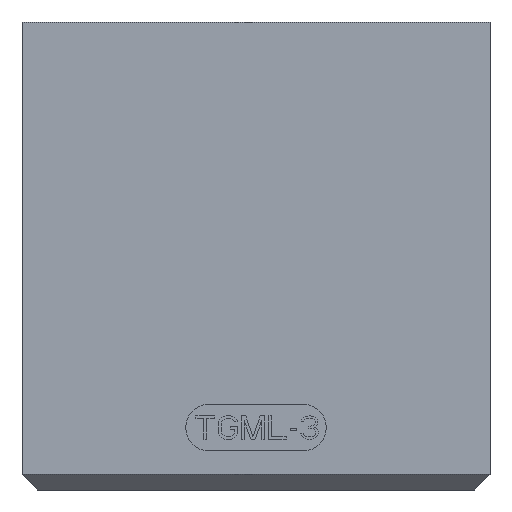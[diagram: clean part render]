
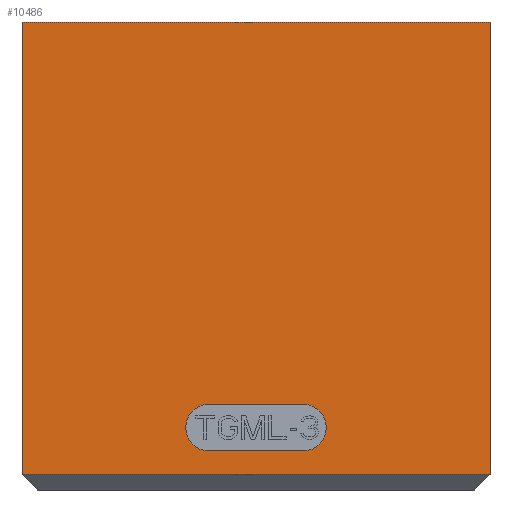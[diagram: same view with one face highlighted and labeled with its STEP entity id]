
A CAD part, front view. The second image highlights one B-rep face of the part: STEP entity #10486.
In plain terms, the highlighted planar face has unit normal (0, -1, 0).
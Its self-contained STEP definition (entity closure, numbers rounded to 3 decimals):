
#1886=DIRECTION('',(1.,0.,0.));
#1887=VECTOR('',#1886,30.);
#1888=CARTESIAN_POINT('',(-4.,-6.,7.5));
#1889=LINE('',#1888,#1887);
#1928=DIRECTION('',(0.,0.,1.));
#1929=VECTOR('',#1928,29.);
#1930=CARTESIAN_POINT('',(26.,-6.,-21.5));
#1931=LINE('',#1930,#1929);
#2059=DIRECTION('',(-1.,0.,0.));
#2060=VECTOR('',#2059,30.);
#2061=CARTESIAN_POINT('',(26.,-6.,-21.5));
#2062=LINE('',#2061,#2060);
#2066=DIRECTION('',(0.,0.,1.));
#2067=VECTOR('',#2066,29.);
#2068=CARTESIAN_POINT('',(-4.,-6.,-21.5));
#2069=LINE('',#2068,#2067);
#2073=CARTESIAN_POINT('',(8.,-6.,-18.5));
#2074=DIRECTION('',(0.,-1.,0.));
#2075=DIRECTION('',(0.,0.,1.));
#2076=AXIS2_PLACEMENT_3D('',#2073,#2074,#2075);
#2081=DIRECTION('',(1.,0.,0.));
#2082=VECTOR('',#2081,6.);
#2083=CARTESIAN_POINT('',(8.,-6.,-20.));
#2084=LINE('',#2083,#2082);
#2088=CARTESIAN_POINT('',(14.,-6.,-18.5));
#2089=DIRECTION('',(0.,-1.,0.));
#2090=DIRECTION('',(0.,0.,-1.));
#2091=AXIS2_PLACEMENT_3D('',#2088,#2089,#2090);
#2096=DIRECTION('',(-1.,0.,0.));
#2097=VECTOR('',#2096,6.);
#2098=CARTESIAN_POINT('',(14.,-6.,-17.));
#2099=LINE('',#2098,#2097);
#5824=CARTESIAN_POINT('',(-4.,-6.,7.5));
#5826=VERTEX_POINT('',#5824);
#5827=CARTESIAN_POINT('',(26.,-6.,7.5));
#5828=VERTEX_POINT('',#5827);
#5841=CARTESIAN_POINT('',(-4.,-6.,-21.5));
#5842=VERTEX_POINT('',#5841);
#5847=CARTESIAN_POINT('',(26.,-6.,-21.5));
#5848=VERTEX_POINT('',#5847);
#5879=CARTESIAN_POINT('',(8.,-6.,-17.));
#5880=CARTESIAN_POINT('',(8.,-6.,-20.));
#5881=VERTEX_POINT('',#5879);
#5882=VERTEX_POINT('',#5880);
#5883=CARTESIAN_POINT('',(14.,-6.,-20.));
#5884=VERTEX_POINT('',#5883);
#5885=CARTESIAN_POINT('',(14.,-6.,-17.));
#5886=VERTEX_POINT('',#5885);
#10465=CARTESIAN_POINT('',(-4.,-6.,-22.5));
#10466=DIRECTION('',(0.,-1.,0.));
#10467=DIRECTION('',(1.,0.,0.));
#10468=AXIS2_PLACEMENT_3D('',#10465,#10466,#10467);
#10469=PLANE('',#10468);
#10470=ORIENTED_EDGE('',*,*,#10459,.T.);
#10471=ORIENTED_EDGE('',*,*,#10434,.T.);
#10472=ORIENTED_EDGE('',*,*,#10327,.T.);
#10473=ORIENTED_EDGE('',*,*,#10346,.F.);
#10474=EDGE_LOOP('',(#10470,#10471,#10472,#10473));
#10475=FACE_OUTER_BOUND('',#10474,.F.);
#10477=ORIENTED_EDGE('',*,*,#10476,.T.);
#10479=ORIENTED_EDGE('',*,*,#10478,.T.);
#10481=ORIENTED_EDGE('',*,*,#10480,.T.);
#10483=ORIENTED_EDGE('',*,*,#10482,.T.);
#10484=EDGE_LOOP('',(#10477,#10479,#10481,#10483));
#10485=FACE_BOUND('',#10484,.F.);
#2077=CIRCLE('',#2076,1.5);
#2092=CIRCLE('',#2091,1.5);
#10327=EDGE_CURVE('',#5826,#5828,#1889,.T.);
#10346=EDGE_CURVE('',#5848,#5828,#1931,.T.);
#10434=EDGE_CURVE('',#5842,#5826,#2069,.T.);
#10459=EDGE_CURVE('',#5848,#5842,#2062,.T.);
#10476=EDGE_CURVE('',#5881,#5882,#2077,.T.);
#10478=EDGE_CURVE('',#5882,#5884,#2084,.T.);
#10480=EDGE_CURVE('',#5884,#5886,#2092,.T.);
#10482=EDGE_CURVE('',#5886,#5881,#2099,.T.);
#10486=ADVANCED_FACE('',(#10475,#10485),#10469,.T.);
